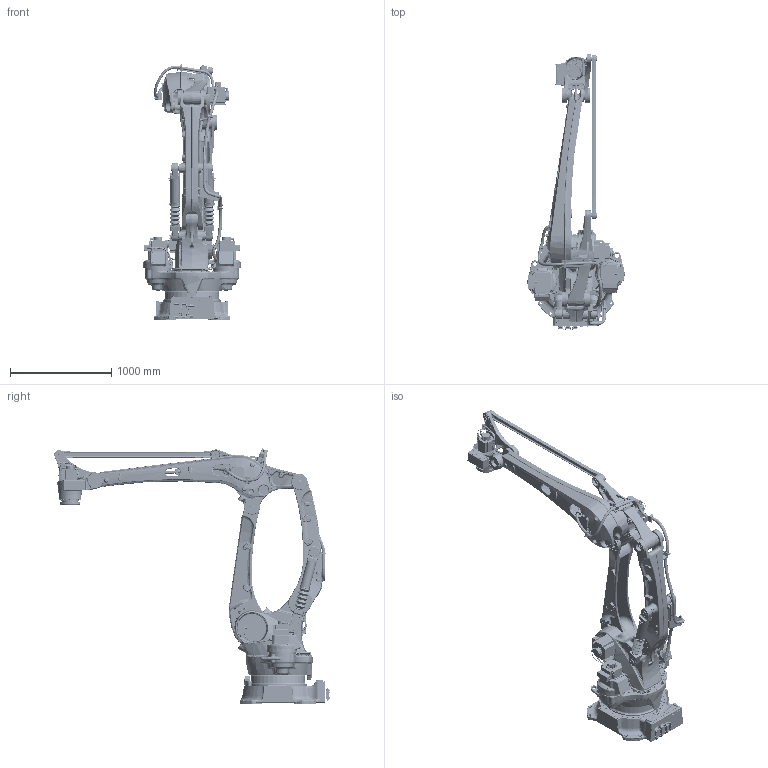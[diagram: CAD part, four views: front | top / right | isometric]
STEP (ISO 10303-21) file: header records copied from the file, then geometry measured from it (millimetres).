
FILE_DESCRIPTION(('CATIA V5 STEP Exchange'),'2;1');
FILE_NAME('D:\モデリング\☆☆☆STEP\CP\CP180\CP180L-AC01_RARAS_201029\軽量化\Part\CP180L-AC01.stp','2020-11-04T04:43:28+00:00',('none'),('none'),'CATIA Version 5-6 Release 2016 SP6 HF14','CATIA V5 STEP AP203','none');
FILE_SCHEMA(('CONFIG_CONTROL_DESIGN'));
Products named in the file (1): CP180L-AC01
Assembly tree (11 placements, depth 2):
  CP180L-AC01
    #57
    #65364
    #210105
    #254301
    #347448
    #352639
    #419880
    #426085
    #495043
    #566484
    #578639
Bounding box: 962.9 x 2725.42 x 2526.54 mm (x, y, z)
Volume: 388160581 mm3; surface area: 16632057.9 mm2
Topology: 55 solids, 55 shells, 13813 faces, 33636 edges, 20580 vertices
Faces by surface type: cylinder 4728, plane 4406, bspline 2445, cone 999, torus 820, sphere 201, extrusion 181, revolution 33
Entity records: 598509 total; most frequent: CARTESIAN_POINT 316764, ORIENTED_EDGE 66094, DIRECTION 40794, EDGE_CURVE 33047, VERTEX_POINT 20580, AXIS2_PLACEMENT_3D 19784, EDGE_LOOP 15360, ADVANCED_FACE 13813
